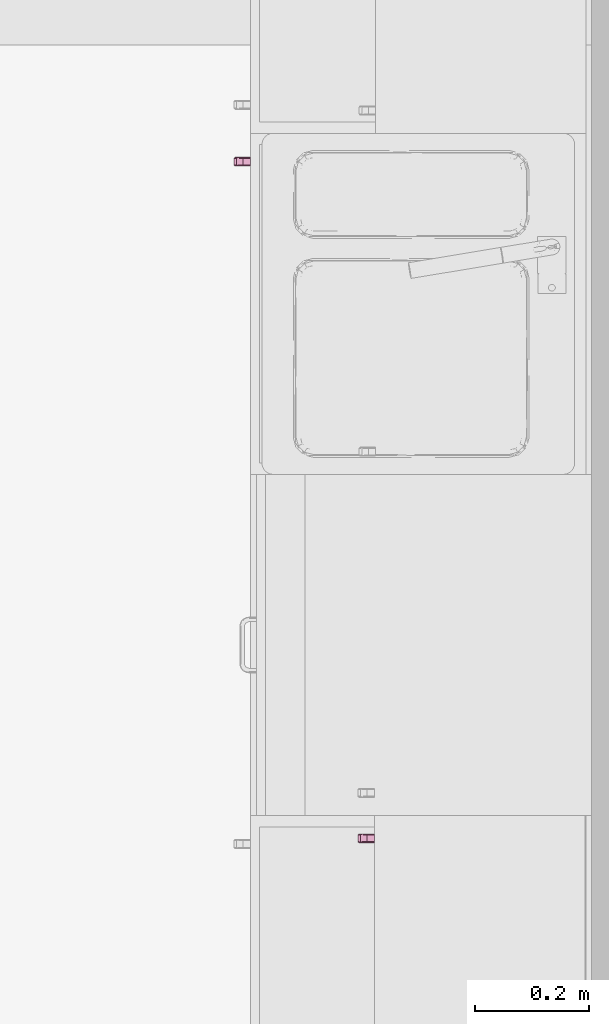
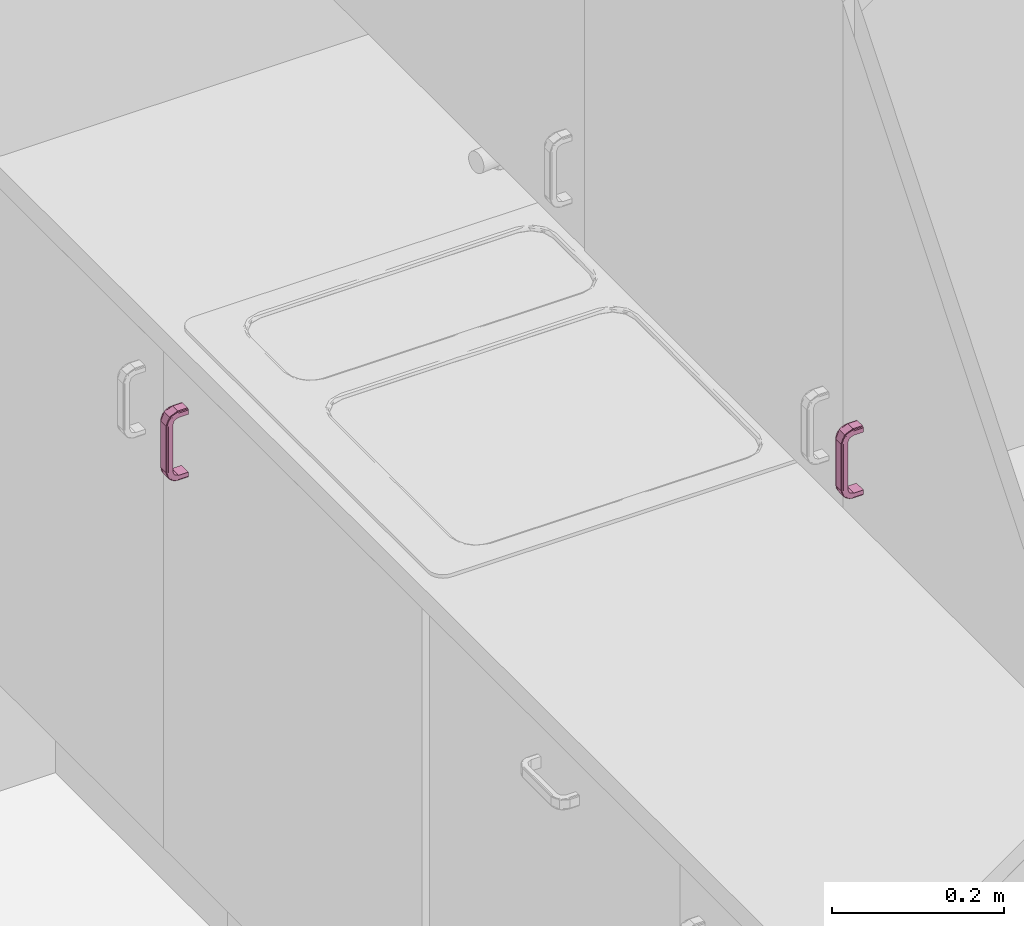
# One storey, part 12 of 15: 2 furnishings.
"""IFC2X3 building model written with IfcOpenShell, lengths in millimetres."""

from ifc_helpers import new_model, entity, si_unit, converted_unit, direction, frame, origin, place, context, subcontext, project, spatial, faceted_brep, source, transform, mapped, material, type_object, type_shapes, element, save


model = new_model("IFC2X3")

# Units and contexts
model_context = context("Model", 3, precision=0.01, world=origin(), true_north=direction((0.0, 1.0)))
body_context = subcontext(model_context, "Body", "Model", "MODEL_VIEW")
ifc_project = project(units=[si_unit("LENGTHUNIT", "METRE", prefix="MILLI"), si_unit("AREAUNIT", "SQUARE_METRE"), si_unit("VOLUMEUNIT", "CUBIC_METRE"), converted_unit("PLANEANGLEUNIT", "DEGREE", entity("IfcPlaneAngleMeasure", 0.017453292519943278), si_unit("PLANEANGLEUNIT", "RADIAN"), dimensions=[0, 0, 0, 0, 0, 0, 0])], contexts=[model_context])

# Site, building, storey, space
site_placement = place(None, origin())
site = spatial("IfcSite", under=ifc_project, at=site_placement, Name="Default", CompositionType="ELEMENT")
building_placement = place(site_placement, origin())
building = spatial("IfcBuilding", under=site, at=building_placement, CompositionType="ELEMENT")
storey_placement = place(building_placement, origin())
storey = spatial("IfcBuildingStorey", under=building, at=storey_placement, Name="Et. 1", CompositionType="ELEMENT", Elevation=0.0)
space_placement = place(storey_placement, frame((11562.567419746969, 11865.190261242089, 0.0)))
space = spatial("IfcSpace", under=storey, at=space_placement, Name="107", CompositionType="ELEMENT", InteriorOrExteriorSpace="INTERNAL")

# Furnishings
ifc_material = material(Name="Focus - Kjøkken - Håndtak")
furniture_type = type_object("IfcFurnitureType", Name="Focus - Håndtak Skap:Håndtak skap", AssemblyPlace="NOTDEFINED", material=ifc_material)
shared_shape = source(origin(), body_context, "Body", "Brep", [
    faceted_brep([(-8.0, 0.0, 2.021099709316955), (-8.0, 0.0, -4.0210997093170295), (8.0, 0.0, -4.0210997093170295), (8.0, 0.0, 2.0210997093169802), (7.414213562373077, 0.0, 3.435313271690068), (6.0, 0.0, 4.021099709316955), (-6.0, 0.0, 4.021099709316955), (-7.414213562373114, 0.0, 3.435313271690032), (-6.0, 0.0, -94.02109970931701), (6.0, 0.0, -94.02109970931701), (7.414213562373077, 0.0, -93.43531327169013), (8.0, 0.0, -92.02109970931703), (8.0, 0.0, -85.97890029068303), (-8.0, 0.0, -85.97890029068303), (-8.0, 0.0, -92.02109970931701), (-7.414213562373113, 0.0, -93.43531327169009), (7.414213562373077, 13.0, 3.4353132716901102), (6.0, 13.0, 4.021099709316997), (8.0, 13.0, 2.0210997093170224), (7.707106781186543, 13.0, 2.728206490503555), (8.0, 13.0, -4.021099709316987), (8.0, 18.641934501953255, -6.358065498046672), (8.0, 20.97890029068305, -12.0), (8.0, 20.978900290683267, -78.0), (8.0, 18.64193450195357, -83.64193450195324), (8.0, 13.0, -85.97890029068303), (8.0, 13.0, -92.02109970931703), (8.0, 15.478603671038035, -90.99442845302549), (8.0, 17.957207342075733, -89.96775719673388), (8.0, 20.435811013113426, -88.94108594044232), (8.0, 22.914414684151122, -87.91441468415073), (8.0, 24.221910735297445, -84.75783998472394), (8.0, 25.52940678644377, -81.60126528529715), (8.0, 27.021099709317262, -78.0), (8.0, 27.021099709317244, -65.65496001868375), (8.0, 27.021099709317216, -57.34504034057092), (8.0, 27.02109970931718, -47.01756015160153), (8.0, 27.02109970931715, -36.69007996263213), (8.0, 27.021099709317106, -24.345039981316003), (8.0, 27.021099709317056, -12.0), (8.0, 25.994428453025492, -9.521396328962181), (8.0, 24.967757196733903, -7.042792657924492), (8.0, 23.941085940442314, -4.564188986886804), (8.0, 22.914414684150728, -2.0855853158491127), (8.0, 19.757839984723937, -0.7780892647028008), (8.0, 16.60126528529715, 0.5294067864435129), (-8.0, 13.0, -4.021099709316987), (-8.0, 13.0, -92.021099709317), (-8.0, 13.0, -85.97890029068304), (-8.0, 18.64193450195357, -83.64193450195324), (-8.0, 20.978900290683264, -78.0), (-8.0, 20.978900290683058, -12.0), (-8.0, 18.641934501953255, -6.358065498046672), (-8.0, 13.0, 2.0210997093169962), (-8.0, 15.478603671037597, 0.9944284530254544), (-8.0, 17.9572073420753, -0.032242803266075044), (-8.0, 20.435811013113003, -1.0589140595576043), (-8.0, 22.914414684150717, -2.0855853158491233), (-8.0, 24.221910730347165, -5.242160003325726), (-8.0, 25.529406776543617, -8.398734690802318), (-8.0, 27.021099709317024, -12.0), (-8.0, 27.021099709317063, -24.345040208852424), (-8.0, 27.0210997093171, -34.67252000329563), (-8.0, 27.02109970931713, -44.99999979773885), (-8.0, 27.021099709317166, -55.32747999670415), (-8.0, 27.0210997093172, -65.65496019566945), (-8.0, 27.021099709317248, -78.0), (-8.0, 25.99442845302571, -80.47860367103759), (-8.0, 24.967757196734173, -82.9572073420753), (-8.0, 23.941085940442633, -85.43581101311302), (-8.0, 22.914414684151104, -87.91441468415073), (-8.0, 19.757839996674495, -89.22191073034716), (-8.0, 16.601265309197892, -90.52940677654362), (-7.414213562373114, 13.0, 3.4353132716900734), (-6.0, 13.0, 4.021099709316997), (-6.523051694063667, 13.0, 3.804444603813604), (7.761199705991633, 19.75591670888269, 1.3575143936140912), (7.776828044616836, 22.64140257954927, -0.588486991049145), (7.832026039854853, 25.954055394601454, -4.794062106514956), (6.765366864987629, 25.00295364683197, -1.6197407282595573), (6.0, 25.18317105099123, -2.734420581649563), (6.0, 24.3286282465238, -0.6713717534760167), (7.148530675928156, 17.923500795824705, 2.864246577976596), (7.138822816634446, 22.341444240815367, 0.575216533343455), (6.0, 20.202530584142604, 1.03771385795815), (7.108929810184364, 27.65191997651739, -6.400304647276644), (6.0, 27.52940678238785, -8.39873470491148), (6.0, 26.674863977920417, -6.335685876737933), (6.0, 26.037713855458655, -4.797469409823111), (6.873580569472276, 26.59747716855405, -3.913704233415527), (6.0, 25.501746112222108, -3.5035288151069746), (7.807346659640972, 27.454202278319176, -8.476170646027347), (7.78360390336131, 16.52927433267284, 2.502698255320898), (6.0, 16.60126529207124, 2.529406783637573), (7.414213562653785, 25.4087319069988, -2.820007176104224), (6.0, 21.496471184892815, 0.5017461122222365), (6.968390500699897, 28.538770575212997, -9.30339655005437), (6.523051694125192, 28.80444460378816, -12.0), (6.0, 29.021099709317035, -12.0), (6.0, 27.847981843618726, -9.167842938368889), (7.414213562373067, 28.43531327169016, -12.0), (6.0, 18.664314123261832, 1.67486397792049), (-6.0, 15.832157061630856, 2.8479818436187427), (-6.0, 16.601265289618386, 2.529406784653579), (-7.76119969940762, 26.357514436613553, -5.2440833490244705), (-7.783603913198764, 27.502698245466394, -8.470725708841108), (-7.10892981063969, 18.599695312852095, 2.651919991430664), (-6.0, 18.664314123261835, 1.67486397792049), (-6.0, 20.202530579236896, 1.0377138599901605), (-7.744591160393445, 19.340507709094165, 1.5930015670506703), (-7.730939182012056, 16.04875454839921, 2.7104148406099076), (-6.76536686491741, 21.540484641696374, 1.3746327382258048), (-6.0, 21.496471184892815, 0.5017461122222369), (-6.0, 22.265579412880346, 0.18317105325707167), (-7.13882282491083, 25.57521654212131, -2.658555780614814), (-7.1485306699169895, 27.864246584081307, -7.076499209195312), (-6.0, 26.037713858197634, -4.797469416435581), (-7.414213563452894, 22.17999279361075, 0.4087319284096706), (-7.776828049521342, 24.411513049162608, -2.35859748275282), (-6.853012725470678, 23.855367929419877, -0.47819170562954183), (-6.0, 27.52940678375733, -8.398734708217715), (-7.414213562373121, 28.43531327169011, -12.0), (-6.0, 24.3286282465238, -0.6713717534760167), (-6.0, 25.501746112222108, -3.503528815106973), (-7.7071067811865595, 27.728206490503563, -12.0), (-6.96839049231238, 15.696603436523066, 3.5387705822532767), (-6.0, 29.021099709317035, -12.0), (-6.0, 26.674863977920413, -6.335685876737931), (7.414213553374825, 28.435313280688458, -29.508780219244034), (7.450985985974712, 28.39755881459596, -41.85381987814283), (6.0, 29.02109970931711, -34.6725200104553), (7.414213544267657, 28.435313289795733, -61.499999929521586), (7.4142135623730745, 28.435313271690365, -78.0), (6.0, 29.021099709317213, -65.65496164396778), (6.0, 29.02109970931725, -78.0), (6.0, 29.02109970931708, -24.345039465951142), (7.707106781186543, 27.728206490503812, -78.0), (6.0, 29.021099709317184, -55.32748109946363), (6.0, 29.02109970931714, -45.00000055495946), (-6.0, 29.02109970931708, -24.345039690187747), (-6.0, 29.02109970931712, -36.69007989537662), (-7.414213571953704, 28.43531326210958, -29.508780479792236), (-7.41421357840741, 28.435313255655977, -61.4999999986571), (-7.414213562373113, 28.43531327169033, -78.0), (-7.3764591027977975, 28.472085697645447, -41.85382016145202), (-6.0, 29.02109970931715, -47.0175595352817), (-6.0, 29.02109970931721, -65.65495979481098), (-6.0, 29.02109970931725, -78.0), (-6.523051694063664, 28.80444460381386, -78.0), (-6.0, 29.021099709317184, -57.345039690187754), (7.7611997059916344, 26.35751439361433, -84.75591670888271), (7.776828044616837, 24.411513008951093, -87.64140257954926), (7.832026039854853, 20.205937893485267, -90.95405539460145), (7.138822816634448, 25.575216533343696, -87.34144424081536), (6.7653668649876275, 23.380259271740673, -90.00295364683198), (6.0, 24.328628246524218, -89.32862824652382), (7.148530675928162, 27.864246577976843, -82.92350079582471), (6.0, 26.037713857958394, -85.2025305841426), (7.108929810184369, 18.599695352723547, -92.6519199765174), (6.0, 16.60126529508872, -92.52940678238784), (6.0, 18.66431412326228, -91.67486397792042), (6.0, 20.202530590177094, -91.03771385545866), (6.0, 22.265579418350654, -90.18317105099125), (7.807346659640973, 16.523829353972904, -92.45420227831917), (7.783603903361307, 27.50269825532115, -81.52927433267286), (6.0, 27.529406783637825, -81.60126529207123), (6.873580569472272, 21.08629576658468, -91.59747716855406), (7.414213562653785, 22.179992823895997, -90.40873190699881), (6.0, 25.50174611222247, -86.49647118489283), (6.968390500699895, 15.69660344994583, -93.538770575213), (6.52305169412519, 13.0, -93.80444460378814), (6.0, 13.0, -94.02109970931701), (6.0, 15.832157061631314, -92.84798184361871), (7.414213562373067, 13.0, -93.43531327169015), (6.0, 26.67486397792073, -83.66431412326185), (6.0, 21.49647118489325, -90.50174611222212), (-6.0, 27.847981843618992, -80.83215706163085), (-6.0, 27.529406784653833, -81.60126528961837), (-7.761199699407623, 19.75591665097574, -91.35751443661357), (-7.783603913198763, 16.529274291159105, -92.50269824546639), (-7.108929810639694, 27.651919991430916, -83.59969531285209), (-6.0, 26.674863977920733, -83.66431412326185), (-6.0, 26.037713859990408, -85.20253057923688), (-7.74459116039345, 26.593001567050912, -84.34050770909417), (-7.730939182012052, 27.71041484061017, -81.04875454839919), (-6.76536686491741, 26.374632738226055, -86.54048464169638), (-6.0, 25.50174611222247, -86.49647118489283), (-6.0, 25.183171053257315, -87.26557941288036), (-7.138822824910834, 22.341444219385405, -90.57521654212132), (-7.148530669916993, 17.923500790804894, -92.8642465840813), (-6.0, 20.202530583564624, -91.03771385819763), (-7.414213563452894, 25.40873192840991, -87.17999279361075), (-7.7768280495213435, 22.641402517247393, -89.41151304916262), (-6.853012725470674, 24.521808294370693, -88.8553679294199), (-6.0, 16.60126529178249, -92.52940678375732), (-7.41421356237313, 13.0, -93.43531327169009), (-6.0, 24.328628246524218, -89.32862824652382), (-6.0, 21.49647118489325, -90.50174611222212), (-7.707106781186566, 13.0, -92.72820649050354), (-6.96839049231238, 28.538770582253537, -80.69660343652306), (-6.0, 13.0, -94.02109970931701), (-6.0, 18.66431412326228, -91.67486397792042)], [[[0, 1, 2, 3, 4, 5, 6, 7]], [[8, 9, 10, 11, 12, 13, 14, 15]], [[5, 4, 16, 17]], [[3, 18, 19, 16, 4]], [[18, 3, 2, 20, 21, 22, 23, 24, 25, 12, 11, 26, 27, 28, 29, 30, 31, 32, 33, 34, 35, 36, 37, 38, 39, 40, 41, 42, 43, 44, 45]], [[20, 2, 1, 46]], [[47, 14, 13, 48, 49, 50, 51, 52, 46, 1, 0, 53, 54, 55, 56, 57, 58, 59, 60, 61, 62, 63, 64, 65, 66, 67, 68, 69, 70, 71, 72]], [[0, 7, 73, 53]], [[6, 74, 75, 73, 7]], [[17, 74, 6, 5]], [[76, 44, 77]], [[42, 41, 78]], [[79, 80, 81]], [[82, 83, 84]], [[85, 86, 87, 88]], [[89, 88, 90, 80]], [[78, 41, 91]], [[45, 76, 92]], [[82, 93, 16]], [[85, 89, 94]], [[83, 81, 95, 84]], [[96, 97, 86]], [[83, 82, 76]], [[78, 77, 42]], [[79, 94, 89]], [[42, 77, 43]], [[82, 16, 92]], [[92, 16, 19, 18]], [[97, 98, 99, 86]], [[91, 39, 100]], [[83, 76, 77]], [[92, 18, 45]], [[83, 77, 94]], [[43, 77, 44]], [[76, 45, 44]], [[92, 76, 82]], [[17, 16, 93]], [[82, 84, 101, 93]], [[79, 83, 94]], [[79, 81, 83]], [[79, 89, 80]], [[89, 85, 88]], [[78, 94, 77]], [[78, 85, 94]], [[85, 78, 91]], [[91, 96, 85]], [[40, 39, 91, 41]], [[100, 97, 96]], [[100, 96, 91]], [[85, 96, 86]], [[20, 46, 52, 21]], [[52, 51, 22, 21]], [[75, 74, 102, 103]], [[59, 104, 105]], [[106, 103, 107, 108]], [[106, 109, 110]], [[111, 108, 112, 113]], [[114, 115, 104]], [[116, 115, 114]], [[117, 56, 109]], [[104, 58, 118]], [[117, 109, 106]], [[111, 119, 117]], [[115, 120, 121]], [[114, 122, 123, 116]], [[119, 111, 113]], [[118, 117, 119]], [[56, 118, 57]], [[115, 121, 105]], [[105, 121, 124, 60]], [[73, 125, 110]], [[106, 110, 125]], [[114, 104, 118]], [[105, 60, 59]], [[119, 114, 118]], [[57, 118, 58]], [[104, 59, 58]], [[105, 104, 115]], [[126, 121, 120]], [[115, 116, 127, 120]], [[111, 106, 108]], [[111, 117, 106]], [[119, 122, 114]], [[122, 119, 113]], [[117, 118, 56]], [[73, 75, 125]], [[125, 75, 103]], [[106, 125, 103]], [[110, 53, 73]], [[109, 56, 55, 54]], [[54, 110, 109]], [[54, 53, 110]], [[123, 122, 81, 80, 90, 88, 87, 86, 99, 98, 126, 120, 127, 116]], [[81, 122, 113, 112, 108, 107, 103, 102, 74, 17, 93, 101, 84, 95]], [[100, 38, 37, 128]], [[128, 129, 130]], [[131, 129, 36]], [[131, 132, 133]], [[132, 134, 133]], [[135, 98, 97, 100]], [[135, 100, 128, 130]], [[131, 36, 35, 34]], [[34, 33, 136, 132]], [[100, 39, 38]], [[132, 131, 34]], [[131, 137, 129]], [[36, 129, 37]], [[129, 137, 138, 130]], [[129, 128, 37]], [[131, 133, 137]], [[23, 22, 51, 50]], [[121, 139, 140, 141]], [[142, 143, 65]], [[142, 144, 145]], [[146, 147, 148, 143]], [[121, 126, 139]], [[143, 66, 65]], [[61, 60, 124, 121]], [[61, 121, 141, 62]], [[142, 145, 149, 146]], [[141, 144, 62]], [[143, 142, 146]], [[142, 64, 144]], [[145, 144, 140]], [[144, 64, 63, 62]], [[144, 141, 140]], [[142, 65, 64]], [[126, 98, 135, 130, 138, 137, 133, 134, 147, 146, 149, 145, 140, 139]], [[150, 31, 151]], [[29, 28, 152]], [[153, 154, 155]], [[156, 153, 157]], [[158, 159, 160, 161]], [[162, 155, 154]], [[152, 28, 163]], [[32, 150, 164]], [[156, 165, 132]], [[158, 166, 167]], [[153, 155, 168, 157]], [[169, 170, 159]], [[153, 156, 150]], [[152, 151, 29]], [[154, 167, 166]], [[29, 151, 30]], [[156, 132, 164]], [[164, 132, 136, 33]], [[170, 171, 172, 159]], [[163, 26, 173]], [[153, 150, 151]], [[164, 33, 32]], [[153, 151, 167]], [[30, 151, 31]], [[150, 32, 31]], [[164, 150, 156]], [[134, 132, 165]], [[156, 157, 174, 165]], [[166, 161, 175, 162]], [[167, 154, 153]], [[154, 166, 162]], [[166, 158, 161]], [[152, 167, 151]], [[152, 158, 167]], [[158, 152, 163]], [[163, 169, 158]], [[27, 26, 163, 28]], [[173, 170, 169]], [[173, 169, 163]], [[158, 169, 159]], [[23, 50, 49, 24]], [[49, 48, 25, 24]], [[148, 147, 176, 177]], [[72, 178, 179]], [[180, 177, 181, 182]], [[180, 183, 184]], [[185, 182, 186, 187]], [[188, 189, 178]], [[190, 189, 188]], [[191, 69, 183]], [[178, 71, 192]], [[191, 183, 180]], [[185, 193, 191]], [[189, 194, 195]], [[188, 196, 197, 190]], [[193, 185, 187]], [[192, 191, 193]], [[69, 192, 70]], [[189, 195, 179]], [[179, 195, 198, 47]], [[143, 199, 184]], [[180, 184, 199]], [[188, 178, 192]], [[179, 47, 72]], [[193, 188, 192]], [[70, 192, 71]], [[178, 72, 71]], [[179, 178, 189]], [[200, 195, 194]], [[189, 190, 201, 194]], [[185, 180, 182]], [[185, 191, 180]], [[193, 196, 188]], [[196, 193, 187]], [[191, 192, 69]], [[143, 148, 199]], [[199, 148, 177]], [[180, 199, 177]], [[184, 66, 143]], [[183, 69, 68, 67]], [[67, 184, 183]], [[67, 66, 184]], [[197, 196, 155, 162, 175, 161, 160, 159, 172, 171, 200, 194, 201, 190]], [[155, 196, 187, 186, 182, 181, 177, 176, 147, 134, 165, 174, 157, 168]], [[171, 170, 173, 10, 9]], [[26, 11, 10, 173]], [[13, 12, 25, 48]], [[47, 198, 195, 15, 14]], [[200, 8, 15, 195]], [[8, 200, 171, 9]]]),
])
type_shapes(furniture_type, [shared_shape])
for number, where, z_axis, x_axis, name in (
    (1, (5038.0, 1738.0, 820.0), (0.0, 0.0, 1.0), (0.0, 1.0, 0.0), "Focus - Håndtak Skap:Håndtak skap"),
    (2, (5256.0, 548.0, 1440.0), (0.0, 0.0, 1.0), (0.0, 1.0, 0.0), "Focus - Håndtak Skap:Håndtak skap"),
):
    element("IfcFurnishingElement", number, at=place(space_placement, frame(where, z_axis=z_axis, x_axis=x_axis)), inside=space, type_object=furniture_type, material=ifc_material, Name=name, context=body_context, shape_type="MappedRepresentation", body=[
        mapped(shared_shape, transform((0.0, 0.0, 0.0), scale=1.0)),
    ])

save(model, "model.ifc")
